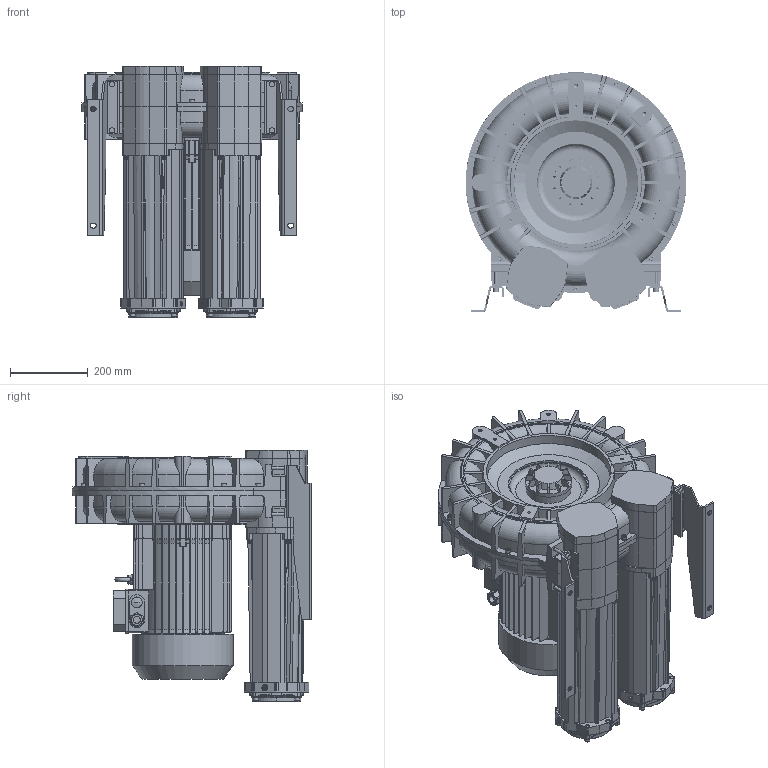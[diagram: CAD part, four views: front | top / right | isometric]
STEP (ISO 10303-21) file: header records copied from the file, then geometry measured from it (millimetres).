
FILE_DESCRIPTION (( 'STEP AP203' ), '1' );
FILE_NAME ('STP-L_e_12_MD_MOR_IE3WR_132_15.0kW-3_24-00.step', '2025-01-15T09:20:16', ( '' ), ( '' ), 'SwSTEP 2.0', 'SolidWorks 2024', '' );
FILE_SCHEMA (( 'CONFIG_CONTROL_DESIGN' ));
Length unit declared in the file: millimetre
Products named in the file (1): STP-L_e_12_MD_MOR_IE3WR_132_15.0kW-3_24-00
Bounding box: 568 x 616 x 647 mm (x, y, z)
Volume: 67453017.2 mm3; surface area: 3829763.8 mm2
Topology: 83 solids, 83 shells, 5929 faces, 15286 edges, 9542 vertices
Faces by surface type: plane 2084, cylinder 1972, bspline 826, torus 502, cone 488, sphere 57
Full cylindrical faces by diameter (mm): 6.8 x24, 7.5 x8, 8 x33, 8.4 x29, 8.5 x10, 8.566 x2, 8.8 x4, 9.98 x2, 10 x3, 11 x8, 12 x2, 12.02 x2, 13 x46, 14 x14, 16 x4, 16.5 x2, 18 x1, 19 x1, 20 x2, 21.4 x1, 24 x4, 25 x3, 28 x1, 110.4 x2, 115 x2, 120 x1, 128 x2, 207 x4, 213 x1, 259 x1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
Entity records: 279166 total; most frequent: CARTESIAN_POINT 145640, ORIENTED_EDGE 29158, DIRECTION 25742, EDGE_CURVE 14579, AXIS2_PLACEMENT_3D 9822, VERTEX_POINT 9336, EDGE_LOOP 6601, FACE_OUTER_BOUND 6226
